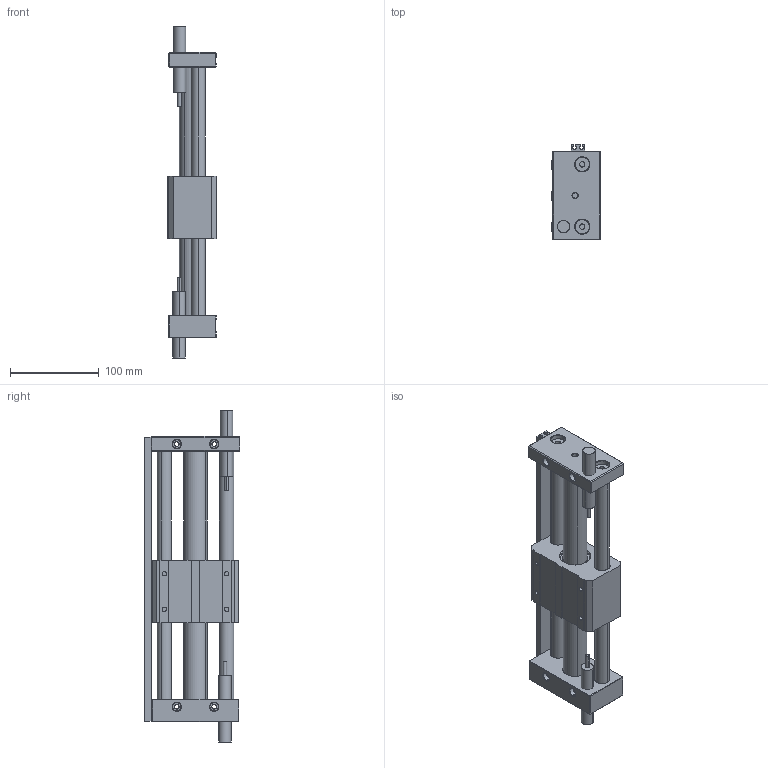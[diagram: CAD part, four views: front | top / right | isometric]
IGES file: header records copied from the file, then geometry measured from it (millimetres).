
Start section: SolidWorks IGES file using analytic representation for surfaces
Global section: file name: D:\Documents de SGA\Pieces 2D et 3D\GRU\iges\GRU 25.200.IGS; native system: SolidWorks 2010; preprocessor: SolidWorks 2010; author: SGA; date: 111216.105634; units: millimetre
Bounding box: 54 x 107.84 x 373.36 mm (x, y, z)
Surface area: 168423.1 mm2 (no closed solid volume)
Topology: 0 solids, 0 shells, 294 faces, 4396 edges, 4396 vertices
Faces by surface type: revolution 158, bspline 136
